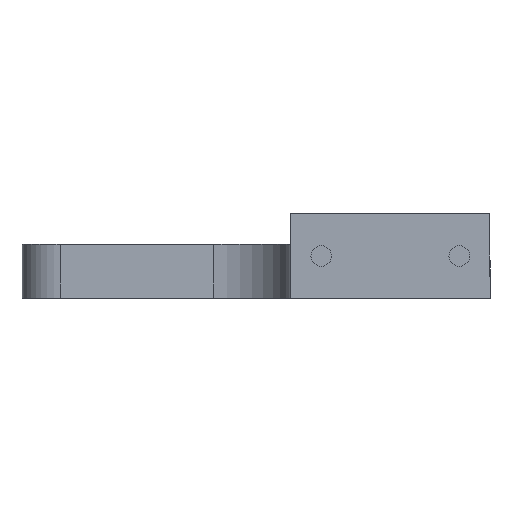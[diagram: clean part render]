
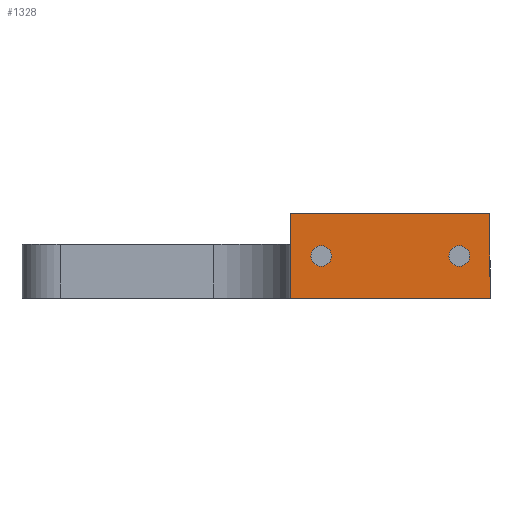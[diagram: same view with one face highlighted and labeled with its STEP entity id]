
A CAD part, front view. The second image highlights one B-rep face of the part: STEP entity #1328.
In plain terms, the highlighted planar face has unit normal (0, -1, 0).
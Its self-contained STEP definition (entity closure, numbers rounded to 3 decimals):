
#7 = EDGE_CURVE ( 'NONE', #124, #696, #855, .T. ) ;
#23 = ORIENTED_EDGE ( 'NONE', *, *, #1498, .F. ) ;
#73 = ORIENTED_EDGE ( 'NONE', *, *, #1520, .F. ) ;
#102 = FACE_OUTER_BOUND ( 'NONE', #875, .T. ) ;
#113 = AXIS2_PLACEMENT_3D ( 'NONE', #885, #710, #1665 ) ;
#124 = VERTEX_POINT ( 'NONE', #1276 ) ;
#139 = EDGE_CURVE ( 'NONE', #866, #1668, #829, .T. ) ;
#173 = ORIENTED_EDGE ( 'NONE', *, *, #139, .F. ) ;
#202 = VECTOR ( 'NONE', #1237, 1000. ) ;
#209 = CARTESIAN_POINT ( 'NONE',  ( 4.5, -68., 11. ) ) ;
#252 = DIRECTION ( 'NONE',  ( 0., -1., 0. ) ) ;
#255 = EDGE_CURVE ( 'NONE', #1534, #1178, #960, .T. ) ;
#286 = CARTESIAN_POINT ( 'NONE',  ( 30.5, -68., 7. ) ) ;
#363 = CIRCLE ( 'NONE', #1467, 1.35 ) ;
#372 = CARTESIAN_POINT ( 'NONE',  ( 30.5, -68., 11. ) ) ;
#387 = ORIENTED_EDGE ( 'NONE', *, *, #7, .F. ) ;
#517 = DIRECTION ( 'NONE',  ( 0., 0., -1. ) ) ;
#520 = LINE ( 'NONE', #1051, #1064 ) ;
#530 = CIRCLE ( 'NONE', #1333, 1.35 ) ;
#539 = VERTEX_POINT ( 'NONE', #1439 ) ;
#590 = FACE_BOUND ( 'NONE', #1270, .T. ) ;
#628 = ORIENTED_EDGE ( 'NONE', *, *, #953, .T. ) ;
#633 = CARTESIAN_POINT ( 'NONE',  ( 8.5, -68., 5.5 ) ) ;
#635 = VERTEX_POINT ( 'NONE', #372 ) ;
#673 = EDGE_LOOP ( 'NONE', ( #73, #387 ) ) ;
#696 = VERTEX_POINT ( 'NONE', #1622 ) ;
#710 = DIRECTION ( 'NONE',  ( 0., -1., 0. ) ) ;
#741 = DIRECTION ( 'NONE',  ( -1., 0., 0. ) ) ;
#745 = AXIS2_PLACEMENT_3D ( 'NONE', #1039, #252, #517 ) ;
#829 = CIRCLE ( 'NONE', #745, 1.35 ) ;
#832 = VECTOR ( 'NONE', #741, 1000. ) ;
#855 = CIRCLE ( 'NONE', #113, 1.35 ) ;
#866 = VERTEX_POINT ( 'NONE', #889 ) ;
#875 = EDGE_LOOP ( 'NONE', ( #1340, #1506, #628, #1584 ) ) ;
#885 = CARTESIAN_POINT ( 'NONE',  ( 26.5, -68., 5.5 ) ) ;
#889 = CARTESIAN_POINT ( 'NONE',  ( 8.5, -68., 4.15 ) ) ;
#915 = VECTOR ( 'NONE', #1207, 1000. ) ;
#917 = DIRECTION ( 'NONE',  ( 0., 0., -1. ) ) ;
#953 = EDGE_CURVE ( 'NONE', #635, #539, #1147, .T. ) ;
#960 = LINE ( 'NONE', #1066, #915 ) ;
#988 = FACE_BOUND ( 'NONE', #673, .T. ) ;
#1032 = DIRECTION ( 'NONE',  ( 0., -1., 0. ) ) ;
#1039 = CARTESIAN_POINT ( 'NONE',  ( 8.5, -68., 5.5 ) ) ;
#1040 = CARTESIAN_POINT ( 'NONE',  ( 26.5, -68., 5.5 ) ) ;
#1051 = CARTESIAN_POINT ( 'NONE',  ( 4.5, -68., 7. ) ) ;
#1058 = DIRECTION ( 'NONE',  ( 0., 0., -1. ) ) ;
#1064 = VECTOR ( 'NONE', #917, 1000. ) ;
#1066 = CARTESIAN_POINT ( 'NONE',  ( 0., -68., 0. ) ) ;
#1099 = LINE ( 'NONE', #286, #202 ) ;
#1119 = EDGE_CURVE ( 'NONE', #539, #1534, #520, .T. ) ;
#1147 = LINE ( 'NONE', #209, #832 ) ;
#1178 = VERTEX_POINT ( 'NONE', #1362 ) ;
#1207 = DIRECTION ( 'NONE',  ( 1., 0., 0. ) ) ;
#1213 = EDGE_CURVE ( 'NONE', #635, #1178, #1099, .T. ) ;
#1217 = CARTESIAN_POINT ( 'NONE',  ( 8.5, -68., 6.85 ) ) ;
#1237 = DIRECTION ( 'NONE',  ( 0., 0., -1. ) ) ;
#1270 = EDGE_LOOP ( 'NONE', ( #173, #23 ) ) ;
#1276 = CARTESIAN_POINT ( 'NONE',  ( 26.5, -68., 6.85 ) ) ;
#1328 = ADVANCED_FACE ( 'NONE', ( #590, #988, #102 ), #1666, .F. ) ;
#1333 = AXIS2_PLACEMENT_3D ( 'NONE', #1040, #1594, #1457 ) ;
#1340 = ORIENTED_EDGE ( 'NONE', *, *, #255, .T. ) ;
#1362 = CARTESIAN_POINT ( 'NONE',  ( 30.5, -68., 0. ) ) ;
#1379 = DIRECTION ( 'NONE',  ( 0., 1., 0. ) ) ;
#1382 = AXIS2_PLACEMENT_3D ( 'NONE', #1503, #1379, #1510 ) ;
#1439 = CARTESIAN_POINT ( 'NONE',  ( 4.5, -68., 11. ) ) ;
#1457 = DIRECTION ( 'NONE',  ( 0., 0., -1. ) ) ;
#1467 = AXIS2_PLACEMENT_3D ( 'NONE', #633, #1032, #1058 ) ;
#1491 = CARTESIAN_POINT ( 'NONE',  ( 4.5, -68., 0. ) ) ;
#1498 = EDGE_CURVE ( 'NONE', #1668, #866, #363, .T. ) ;
#1503 = CARTESIAN_POINT ( 'NONE',  ( 0., -68., 7. ) ) ;
#1506 = ORIENTED_EDGE ( 'NONE', *, *, #1213, .F. ) ;
#1510 = DIRECTION ( 'NONE',  ( 0., 0., 1. ) ) ;
#1520 = EDGE_CURVE ( 'NONE', #696, #124, #530, .T. ) ;
#1534 = VERTEX_POINT ( 'NONE', #1491 ) ;
#1584 = ORIENTED_EDGE ( 'NONE', *, *, #1119, .T. ) ;
#1594 = DIRECTION ( 'NONE',  ( 0., -1., 0. ) ) ;
#1622 = CARTESIAN_POINT ( 'NONE',  ( 26.5, -68., 4.15 ) ) ;
#1665 = DIRECTION ( 'NONE',  ( 0., 0., -1. ) ) ;
#1666 = PLANE ( 'NONE',  #1382 ) ;
#1668 = VERTEX_POINT ( 'NONE', #1217 ) ;
